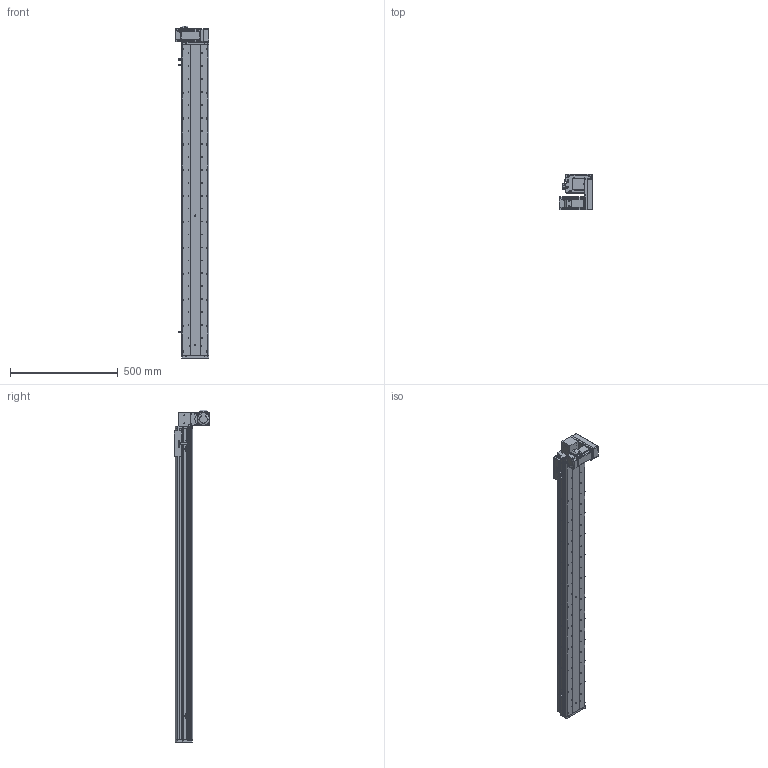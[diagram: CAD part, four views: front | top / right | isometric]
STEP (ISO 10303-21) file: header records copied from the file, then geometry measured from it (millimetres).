
FILE_DESCRIPTION (( 'STEP AP214' ), '1' );
FILE_NAME ('KSD125B-S1250-MLD-CM.STEP', '2017-10-21T03:00:07', ( '微软用户' ), ( '微软中国' ), 'SwSTEP 2.0', 'SolidWorks 2014', '' );
FILE_SCHEMA (( 'AUTOMOTIVE_DESIGN' ));
Length unit declared in the file: millimetre
Products named in the file (17): KSD125B-S1250-MLD-CM; 悵誘欶奻狟殏; 100宽马达安装板连板上下折丝杆同步带; HTPA30S3M150_A_H6_a佪裝蚚; HTPA30S3M150_A_H6_a萇儂蚚; 100宽马达安装板同步带左; KSD125模组1250行程同步带-防尘盖; 125模组1250行程同步带-底板; MHMD042G1CA_2_03; KSD125模组同步带-防撞垫2; 覜茼え68遵圉猾敕; U倰嫖萇假蚾璃; U倰嫖萇EEㄜSX672; KSD125模组同步带-防撞垫1; 前端板-125宽模组同步带; 125模组同步带-尾端板1; KSD125模组同步带-滑动座1
Assembly tree (20 placements, depth 2):
  KSD125B-S1250-MLD-CM
    KSD125模组同步带-滑动座1
    125模组同步带-尾端板1
    前端板-125宽模组同步带
    KSD125模组同步带-防撞垫1
    U倰嫖萇EEㄜSX672  x3
    U倰嫖萇假蚾璃  x3
    覜茼え68遵圉猾敕
    KSD125模组同步带-防撞垫2
    MHMD042G1CA_2_03
    125模组1250行程同步带-底板
    KSD125模组1250行程同步带-防尘盖
    100宽马达安装板同步带左
    HTPA30S3M150_A_H6_a萇儂蚚
    HTPA30S3M150_A_H6_a佪裝蚚
    100宽马达安装板连板上下折丝杆同步带
    悵誘欶奻狟殏
Bounding box: 155 x 166.5 x 1539 mm (x, y, z)
Volume: 4593687.6 mm3; surface area: 1530424.9 mm2
Topology: 19 solids, 22 shells, 2347 faces, 6805 edges, 4498 vertices
Faces by surface type: cylinder 1488, plane 732, cone 105, bspline 22
Entity records: 83843 total; most frequent: CARTESIAN_POINT 16515, DIRECTION 13026, ORIENTED_EDGE 12130, EDGE_CURVE 6143, AXIS2_PLACEMENT_3D 5049, VERTEX_POINT 4090, VECTOR 2928, LINE 2928
